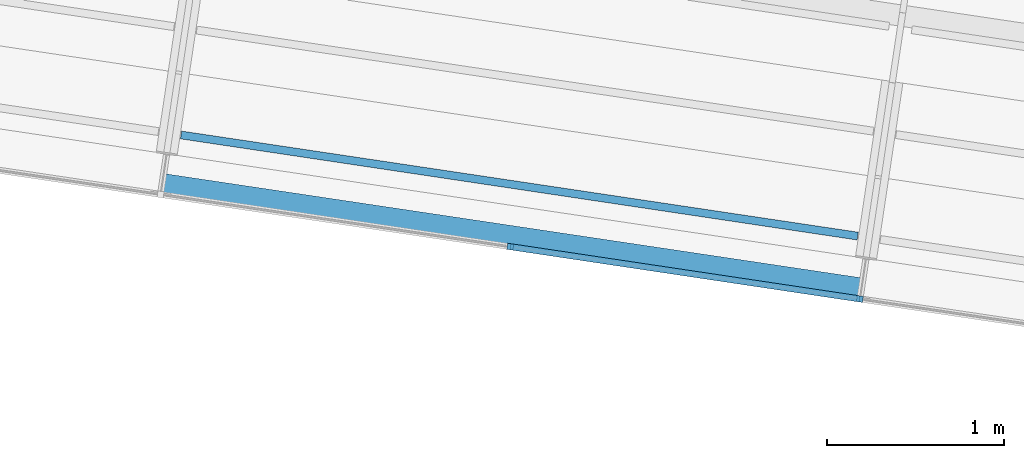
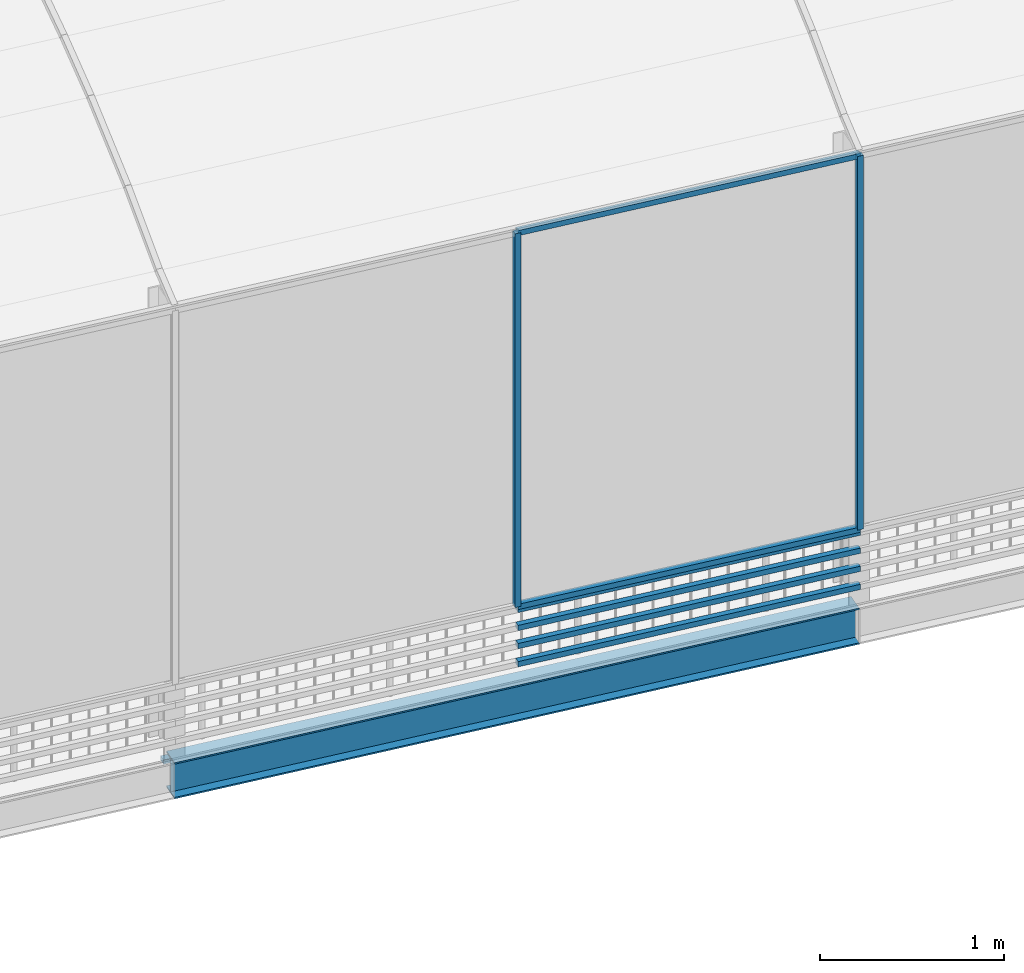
# One storey, part 5 of 34: 10 members, 2 beams.
"""IFC4 building model written with IfcOpenShell, lengths in metres."""

from ifc_helpers import new_model, si_unit, direction, frame, origin_with_axes, place, context, subcontext, project, spatial, polyline, rectangle, i_section, outline, extrude, material, material_profile, profile_set, profile_usage, type_object, element, save


model = new_model("IFC4")

# Units and contexts
model_context = context("Model", 3, precision=1e-05, world=origin_with_axes(), true_north=direction((0.0, 1.0)))
body_context = subcontext(model_context, "Body", "Model", "MODEL_VIEW")
ifc_project = project(units=[si_unit("AREAUNIT", "SQUARE_METRE"), si_unit("VOLUMEUNIT", "CUBIC_METRE"), si_unit("LENGTHUNIT", "METRE")], contexts=[model_context])

# Site, building, storey
site_placement = place(None, origin_with_axes())
site = spatial("IfcSite", under=ifc_project, at=site_placement, Name="Lares · Rua das Mercês · artigo 4771")
building_placement = place(site_placement, frame((15.0, 9.7, 14.65), z_axis=(0.0, 0.0, 1.0), x_axis=(0.989015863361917, -0.147809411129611, 0.0)))
building = spatial("IfcBuilding", under=site, at=building_placement, Name="Casa Sobreposta")
storey_placement = place(building_placement, frame((0.0, 0.0, 3.24), z_axis=(0.0, 0.0, 1.0), x_axis=(1.0, 0.0, 0.0)))
storey = spatial("IfcBuildingStorey", under=building, at=storey_placement, Name="01 · Jardim de inverno", Elevation=17.89)

# Beam
ifc_material_1 = material(Name="Aço pintado / Stahl lackiert", Category="steel")
ifc_material_profile_1 = material_profile(ifc_material_1, i_section(OverallWidth=0.12, OverallDepth=0.24, WebThickness=0.0062, FlangeThickness=0.0098))
ifc_profile_set_1 = profile_set([ifc_material_profile_1], Name="IPE240")
ifc_profile_usage_1 = profile_usage(ifc_profile_set_1)
beam_type = type_object("IfcBeamType", Name="IPE240 / steel", PredefinedType="NOTDEFINED", material=ifc_profile_set_1)
beam_1_placement = place(storey_placement, frame((12.0, -1.44, -0.152), z_axis=(1.0, 0.0, 0.0), x_axis=(0.0, -1.0, 0.0)))
element("IfcBeam", 1, at=beam_1_placement, inside=storey, type_object=beam_type, material=ifc_profile_usage_1, Name="Viga longitudinal 12 / -1.44", context=body_context, shape_type="SweptSolid", body=[
    extrude(i_section(OverallWidth=0.12, OverallDepth=0.24, WebThickness=0.0062, FlangeThickness=0.0098), origin_with_axes(), (0.0, 0.0, 1.0), 4.0),
])

# Members
ifc_material_profile_2 = material_profile(ifc_material_1, rectangle(XDim=0.035, YDim=0.035))
ifc_profile_set_2 = profile_set([ifc_material_profile_2], Name="R0.035")
ifc_profile_usage_2 = profile_usage(ifc_profile_set_2)
member_type = type_object("IfcMemberType", Name="R0.035 / steel", PredefinedType="NOTDEFINED", material=ifc_profile_set_2)
member_1_placement = place(storey_placement, frame((14.0, -1.5, 0.5), z_axis=(0.0, 0.0, 1.0), x_axis=(1.0, 0.0, 0.0)))
element("IfcMember", 2, at=member_1_placement, inside=storey, type_object=member_type, material=ifc_profile_usage_2, context=body_context, shape_type="SweptSolid", body=[
    extrude(rectangle(XDim=0.035, YDim=0.035), origin_with_axes(), (0.0, 0.0, 1.0), 2.48),
])
ifc_profile_usage_3 = profile_usage(ifc_profile_set_2)
member_2_placement = place(storey_placement, frame((14.0, -1.5, 0.5), z_axis=(0.0, 0.0, 1.0), x_axis=(1.0, 0.0, 0.0)))
element("IfcMember", 3, at=member_2_placement, inside=storey, type_object=member_type, material=ifc_profile_usage_3, context=body_context, shape_type="SweptSolid", body=[
    extrude(rectangle(XDim=0.035, YDim=0.035), origin_with_axes(), (0.0, 0.0, 1.0), 2.48),
])
ifc_profile_usage_4 = profile_usage(ifc_profile_set_2)
member_3_placement = place(storey_placement, frame((16.0, -1.5, 0.5), z_axis=(0.0, 0.0, 1.0), x_axis=(1.0, 0.0, 0.0)))
element("IfcMember", 4, at=member_3_placement, inside=storey, type_object=member_type, material=ifc_profile_usage_4, context=body_context, shape_type="SweptSolid", body=[
    extrude(rectangle(XDim=0.035, YDim=0.035), origin_with_axes(), (0.0, 0.0, 1.0), 2.48),
])
ifc_profile_usage_5 = profile_usage(ifc_profile_set_2)
member_4_placement = place(storey_placement, frame((14.0, -1.5, 0.5), z_axis=(1.0, 0.0, 0.0), x_axis=(0.0, -1.0, 0.0)))
element("IfcMember", 5, at=member_4_placement, inside=storey, type_object=member_type, material=ifc_profile_usage_5, Name="Estufa sul 8 · travessa", context=body_context, shape_type="SweptSolid", body=[
    extrude(rectangle(XDim=0.035, YDim=0.035), origin_with_axes(), (0.0, 0.0, 1.0), 2.0),
])
ifc_profile_usage_6 = profile_usage(ifc_profile_set_2)
member_5_placement = place(storey_placement, frame((14.0, -1.5, 2.98), z_axis=(1.0, 0.0, 0.0), x_axis=(0.0, -1.0, 0.0)))
element("IfcMember", 6, at=member_5_placement, inside=storey, type_object=member_type, material=ifc_profile_usage_6, Name="Estufa sul 8 · travessa", context=body_context, shape_type="SweptSolid", body=[
    extrude(rectangle(XDim=0.035, YDim=0.035), origin_with_axes(), (0.0, 0.0, 1.0), 2.0),
])
ifc_profile_usage_7 = profile_usage(ifc_profile_set_2)
member_6_placement = place(storey_placement, frame((14.0, -1.5, 0.12), z_axis=(1.0, 0.0, 0.0), x_axis=(0.0, -1.0, 0.0)))
element("IfcMember", 7, at=member_6_placement, inside=storey, type_object=member_type, material=ifc_profile_usage_7, Name="Entrada de ar sul 8", context=body_context, shape_type="SweptSolid", body=[
    extrude(rectangle(XDim=0.035, YDim=0.035), origin_with_axes(), (0.0, 0.0, 1.0), 2.0),
])
ifc_profile_usage_8 = profile_usage(ifc_profile_set_2)
member_7_placement = place(storey_placement, frame((14.0, -1.5, 0.24), z_axis=(1.0, 0.0, 0.0), x_axis=(0.0, -1.0, 0.0)))
element("IfcMember", 8, at=member_7_placement, inside=storey, type_object=member_type, material=ifc_profile_usage_8, Name="Entrada de ar sul 8", context=body_context, shape_type="SweptSolid", body=[
    extrude(rectangle(XDim=0.035, YDim=0.035), origin_with_axes(), (0.0, 0.0, 1.0), 2.0),
])
ifc_profile_usage_9 = profile_usage(ifc_profile_set_2)
member_8_placement = place(storey_placement, frame((14.0, -1.5, 0.36), z_axis=(1.0, 0.0, 0.0), x_axis=(0.0, -1.0, 0.0)))
element("IfcMember", 9, at=member_8_placement, inside=storey, type_object=member_type, material=ifc_profile_usage_9, Name="Entrada de ar sul 8", context=body_context, shape_type="SweptSolid", body=[
    extrude(rectangle(XDim=0.035, YDim=0.035), origin_with_axes(), (0.0, 0.0, 1.0), 2.0),
])
ifc_profile_usage_10 = profile_usage(ifc_profile_set_2)
member_9_placement = place(storey_placement, frame((14.0, -1.5, 0.48), z_axis=(1.0, 0.0, 0.0), x_axis=(0.0, -1.0, 0.0)))
element("IfcMember", 10, at=member_9_placement, inside=storey, type_object=member_type, material=ifc_profile_usage_10, Name="Entrada de ar sul 8", context=body_context, shape_type="SweptSolid", body=[
    extrude(rectangle(XDim=0.035, YDim=0.035), origin_with_axes(), (0.0, 0.0, 1.0), 2.0),
])
ifc_profile_usage_11 = profile_usage(ifc_profile_set_2)
member_10_placement = place(storey_placement, frame((16.0, -1.5, 0.5), z_axis=(0.0, 0.0, 1.0), x_axis=(1.0, 0.0, 0.0)))
element("IfcMember", 11, at=member_10_placement, inside=storey, type_object=member_type, material=ifc_profile_usage_11, context=body_context, shape_type="SweptSolid", body=[
    extrude(rectangle(XDim=0.035, YDim=0.035), origin_with_axes(), (0.0, 0.0, 1.0), 2.48),
])

# Beam
ifc_material_2 = material(Name="Madeira / Bauholz", Category="wood")
ifc_material_profile_3 = material_profile(ifc_material_2, outline(polyline([(0.022225, -0.12), (0.022225, -0.092), (-0.022225, -0.092), (-0.022225, -0.12), (0.022225, -0.12)])))
ifc_material_3 = material(Name="OSB", Category="wood")
ifc_material_profile_4 = material_profile(ifc_material_3, outline(polyline([(0.0047625, -0.092), (0.0047625, 0.092), (-0.0047625, 0.092), (-0.0047625, -0.092), (0.0047625, -0.092)])))
ifc_material_profile_5 = material_profile(ifc_material_2, outline(polyline([(0.022225, 0.092), (0.022225, 0.12), (-0.022225, 0.12), (-0.022225, 0.092), (0.022225, 0.092)])))
ifc_profile_set_3 = profile_set([ifc_material_profile_3, ifc_material_profile_4, ifc_material_profile_5], Name="TJI240 · madeira / OSB")
ifc_profile_usage_12 = profile_usage(ifc_profile_set_3)
beam_2_placement = place(storey_placement, frame((12.065, -1.15, -0.152), z_axis=(1.0, 0.0, 0.0), x_axis=(0.0, 1.0, 0.0)))
element("IfcBeam", 12, at=beam_2_placement, inside=storey, material=ifc_profile_usage_12, Name="TJI240 · 12.065 / -1.15", context=body_context, shape_type="SweptSolid", body=[
    extrude(outline(polyline([(0.022225, -0.12), (0.022225, -0.092), (-0.022225, -0.092), (-0.022225, -0.12), (0.022225, -0.12)])), origin_with_axes(), (0.0, 0.0, 1.0), 3.87),
    extrude(outline(polyline([(0.022225, -0.12), (0.022225, -0.092), (-0.022225, -0.092), (-0.022225, -0.12), (0.022225, -0.12)])), origin_with_axes(), (0.0, 0.0, 1.0), 3.87),
    extrude(outline(polyline([(0.022225, -0.12), (0.022225, -0.092), (-0.022225, -0.092), (-0.022225, -0.12), (0.022225, -0.12)])), origin_with_axes(), (0.0, 0.0, 1.0), 3.87),
])

save(model, "model.ifc")
